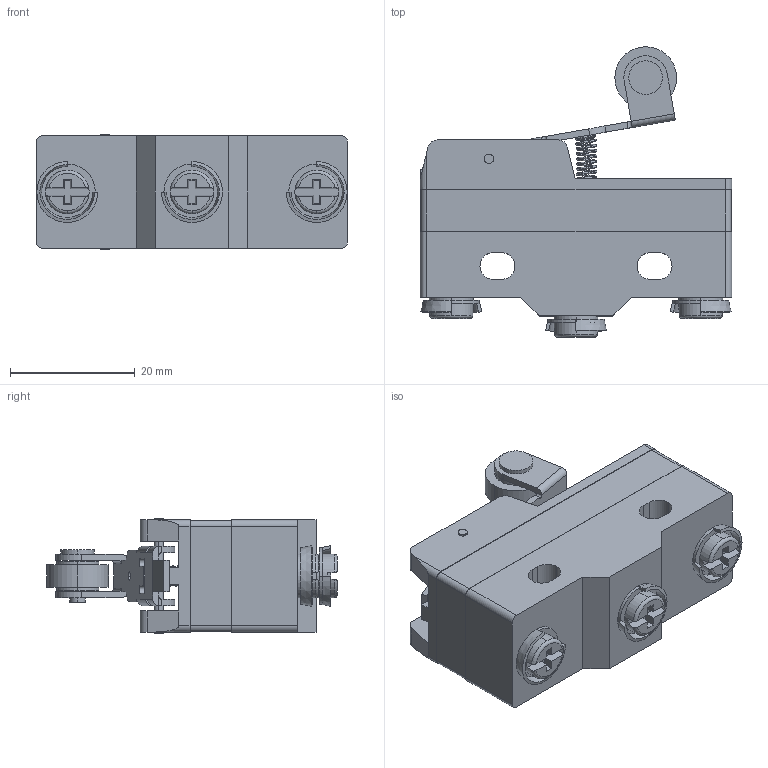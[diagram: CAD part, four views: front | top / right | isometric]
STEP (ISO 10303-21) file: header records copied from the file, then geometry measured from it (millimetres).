
FILE_DESCRIPTION (( 'STEP AP203' ), '1' );
FILE_NAME ('FM1704.STEP', '2018-06-01T16:50:43', ( '' ), ( '' ), 'SwSTEP 2.0', 'SolidWorks 2012', '' );
FILE_SCHEMA (( 'CONFIG_CONTROL_DESIGN' ));
Length unit declared in the file: millimetre
Products named in the file (1): FM1704
Bounding box: 49.9 x 46.56 x 18.5 mm (x, y, z)
Volume: 18913 mm3; surface area: 8374.1 mm2
Topology: 6 solids, 6 shells, 279 faces, 730 edges, 480 vertices
Faces by surface type: plane 153, cylinder 98, cone 17, torus 9, bspline 2
Entity records: 11629 total; most frequent: CARTESIAN_POINT 4501, DIRECTION 1498, ORIENTED_EDGE 1460, EDGE_CURVE 730, AXIS2_PLACEMENT_3D 525, VERTEX_POINT 480, LINE 448, VECTOR 448
